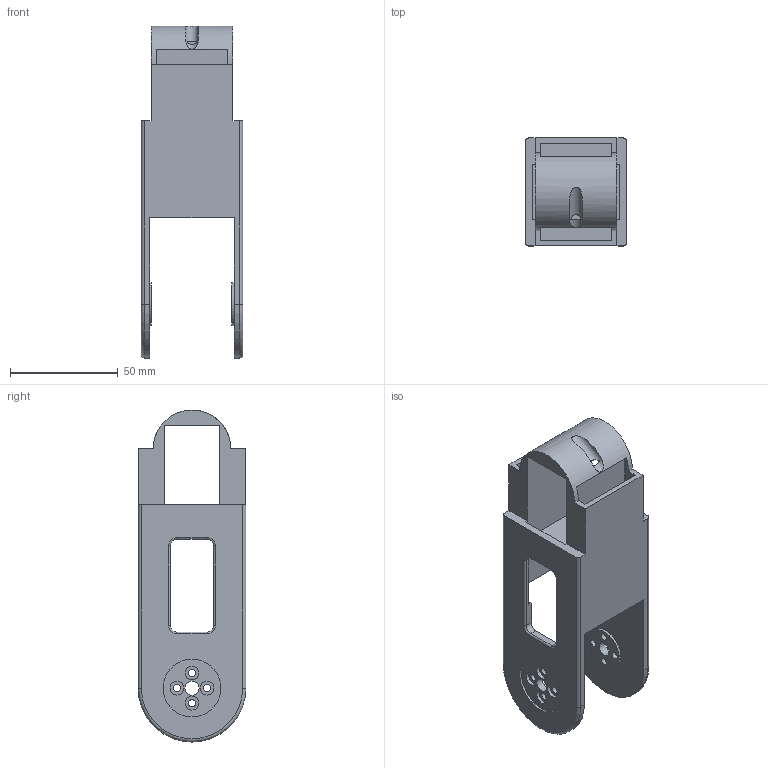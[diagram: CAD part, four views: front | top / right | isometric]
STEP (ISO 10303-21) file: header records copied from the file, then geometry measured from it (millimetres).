
FILE_DESCRIPTION(/* description */ ('Straight open bridge. Elbow to wrist pitch exactly 111 mm; lower span 150 mm, ratio 0.74. Transverse distal servo, 47 mm root fork, 4 mm cheeks. Both pitch pivots on Y=0.'),/* implementation_level */ '2;1');
FILE_NAME(/* name */ '13 Upper arm - 111 mm pitch span.step',/* time_stamp */ '2026-10-02T18:55:07+01:00',/* author */ (''),/* organization */ (''),/* preprocessor_version */ 'ST-DEVELOPER v20.2',/* originating_system */ 'Autodesk Translation Framework v15.15.0.0',/* authorisation */ '');
FILE_SCHEMA (('AUTOMOTIVE_DESIGN { 1 0 10303 214 3 1 1 }'));
Length unit declared in the file: millimetre
Products named in the file (1): 2026-10-02-18-55-07-437
Bounding box: 47 x 50 x 154 mm (x, y, z)
Volume: 69863.7 mm3; surface area: 45315.5 mm2
Topology: 1 solids, 1 shells, 117 faces, 298 edges, 191 vertices
Faces by surface type: plane 61, cylinder 46, torus 10
Full cylindrical faces by diameter (mm): 3.4 x8, 6.4 x8, 6.5 x2, 20 x2, 26.8 x2
Entity records: 3678 total; most frequent: CARTESIAN_POINT 664, DIRECTION 639, ORIENTED_EDGE 596, EDGE_CURVE 298, AXIS2_PLACEMENT_3D 224, LINE 191, VECTOR 191, VERTEX_POINT 191
